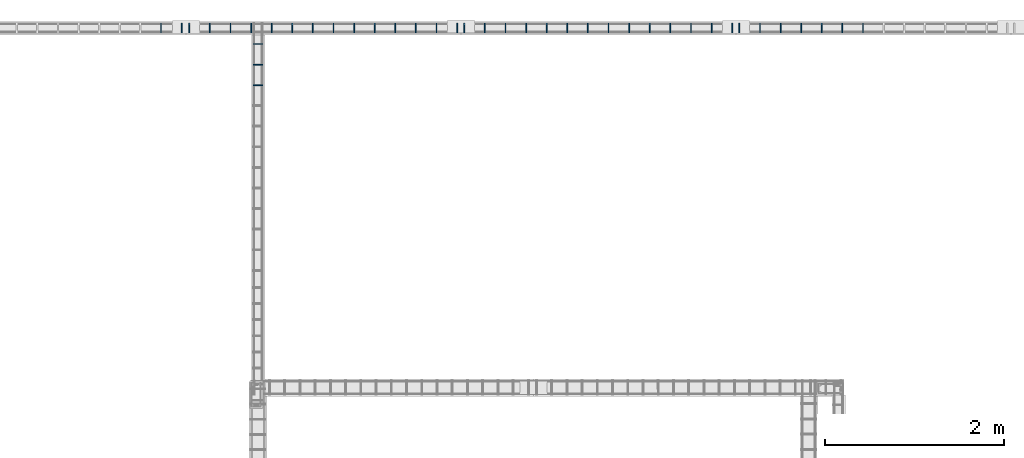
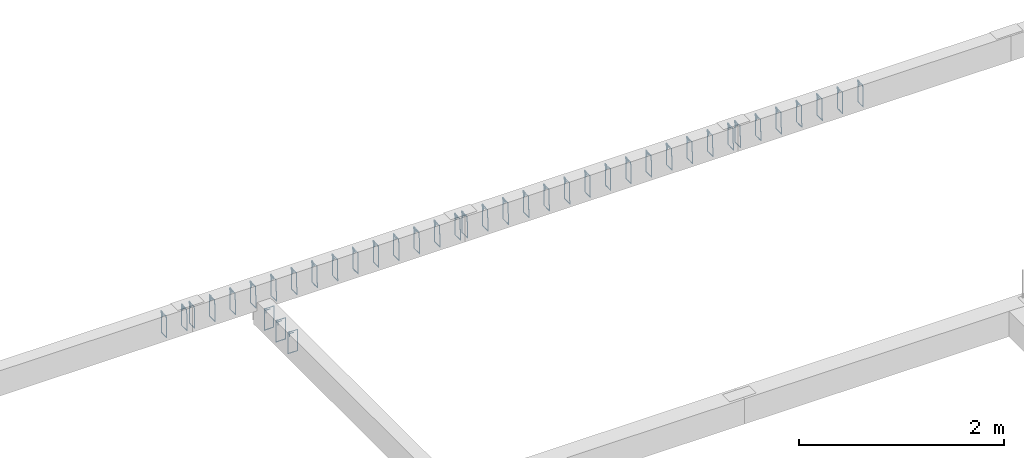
# One storey, part 140 of 150: 40 reinforcing bars.
"""IFC4 building model written with IfcOpenShell, lengths in centimetres."""

from ifc_helpers import new_model, entity, si_unit, derived_unit, frame, origin_with_axes, place, context, project, spatial, source, transform, mapped, element, save


model = new_model("IFC4")

# Units and contexts
model_context = context("Model", 3, precision=1e-05, world=origin_with_axes(), identifier="Body")
ifc_project = project(units=[si_unit("LENGTHUNIT", "METRE", prefix="CENTI"), si_unit("VOLUMEUNIT", "CUBIC_METRE"), si_unit("AREAUNIT", "SQUARE_METRE"), si_unit("POWERUNIT", "WATT"), si_unit("LUMINOUSFLUXUNIT", "LUMEN"), si_unit("ELECTRICCURRENTUNIT", "AMPERE"), si_unit("PRESSUREUNIT", "PASCAL", prefix="KILO"), si_unit("MASSUNIT", "GRAM", prefix="KILO"), si_unit("PLANEANGLEUNIT", "RADIAN"), derived_unit("VOLUMETRICFLOWRATEUNIT", [(si_unit("LENGTHUNIT", "METRE"), 3), (si_unit("TIMEUNIT", "SECOND"), -1)])], contexts=[model_context])

# Site, building, storey
site_placement = place(None, frame((-4000.0, 0.0, 0.0), z_axis=(0.0, 0.0, 1.0), x_axis=(1.0, 0.0, 0.0)))
site = spatial("IfcSite", under=ifc_project, at=site_placement, Name="PADRÃO")
building_placement = place(site_placement, frame((0.0, 0.0, -14.0)))
building = spatial("IfcBuilding", under=site, at=building_placement, Name="CRECHE PRÉ-ESCOLA TIPO 2")
placement = place(building_placement, origin_with_axes())
storey_placement = place(placement, frame((0.0, 0.0, 30.0), z_axis=(0.0, 0.0, 1.0), x_axis=(1.0, 0.0, 0.0)))
storey = spatial("IfcBuildingStorey", under=building, at=storey_placement, Name="VIGA BALDRAME", CompositionType="ELEMENT", Elevation=16.0)

# Reinforcing bars
shared_shape_1 = source(origin_with_axes(), model_context, "Body", "AdvancedSweptSolid", [
    entity("IfcSweptDiskSolid", entity("IfcCompositeCurve", [entity("IfcCompositeCurveSegment", "CONTINUOUS", True, entity("IfcPolyline", [entity("IfcCartesianPoint", [2.0, -6.0, 0.0]), entity("IfcCartesianPoint", [2.0, 0.0, 0.0])])), entity("IfcCompositeCurveSegment", "CONTINUOUS", True, entity("IfcPolyline", [entity("IfcCartesianPoint", [2.0, 0.0, 0.0]), entity("IfcCartesianPoint", [0.0, 0.0, 0.0])])), entity("IfcCompositeCurveSegment", "CONTINUOUS", True, entity("IfcPolyline", [entity("IfcCartesianPoint", [0.0, 0.0, 0.0]), entity("IfcCartesianPoint", [0.0, -25.5, 0.0])])), entity("IfcCompositeCurveSegment", "CONTINUOUS", True, entity("IfcPolyline", [entity("IfcCartesianPoint", [0.0, -25.5, 0.0]), entity("IfcCartesianPoint", [10.5, -25.5, 0.0])])), entity("IfcCompositeCurveSegment", "CONTINUOUS", True, entity("IfcPolyline", [entity("IfcCartesianPoint", [10.5, -25.5, 0.0]), entity("IfcCartesianPoint", [10.5, 0.0, 0.5])])), entity("IfcCompositeCurveSegment", "CONTINUOUS", True, entity("IfcPolyline", [entity("IfcCartesianPoint", [10.5, 0.0, 0.5]), entity("IfcCartesianPoint", [0.0, 0.0, 0.5])])), entity("IfcCompositeCurveSegment", "CONTINUOUS", True, entity("IfcPolyline", [entity("IfcCartesianPoint", [0.0, 0.0, 0.5]), entity("IfcCartesianPoint", [0.0, -2.0, 0.5])])), entity("IfcCompositeCurveSegment", "CONTINUOUS", True, entity("IfcPolyline", [entity("IfcCartesianPoint", [0.0, -2.0, 0.5]), entity("IfcCartesianPoint", [6.0, -2.0, 0.5])]))], False), 0.25),
])
for number, where, z_axis, x_axis, name in (
    (1, (2519.28, 4423.01, -22.25), (0.0, -1.0, 0.0), (1.0, 0.0, 0.0), "V200 - Estribo"),
    (2, (2519.28, 4446.01, -22.25), (0.0, -1.0, 0.0), (1.0, 0.0, 0.0), "V200 - Estribo"),
    (3, (2519.28, 4469.01, -22.25), (0.0, -1.0, 0.0), (1.0, 0.0, 0.0), "V200 - Estribo"),
):
    element("IfcReinforcingBar", number, at=place(storey_placement, frame(where, z_axis=z_axis, x_axis=x_axis)), inside=storey, Name=name, BarLength=0.0, CrossSectionArea=1.9634954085e-05, NominalDiameter=0.5, PredefinedType="MAIN", context=model_context, shape_type="MappedRepresentation", body=[
        mapped(shared_shape_1, transform((0.0, 0.0, 0.0), scale=1.0)),
    ])
shared_shape_2 = source(origin_with_axes(), model_context, "Body", "AdvancedSweptSolid", [
    entity("IfcSweptDiskSolid", entity("IfcCompositeCurve", [entity("IfcCompositeCurveSegment", "CONTINUOUS", True, entity("IfcPolyline", [entity("IfcCartesianPoint", [2.0, -6.0, 0.0]), entity("IfcCartesianPoint", [2.0, 0.0, 0.0])])), entity("IfcCompositeCurveSegment", "CONTINUOUS", True, entity("IfcPolyline", [entity("IfcCartesianPoint", [2.0, 0.0, 0.0]), entity("IfcCartesianPoint", [0.0, 0.0, 0.0])])), entity("IfcCompositeCurveSegment", "CONTINUOUS", True, entity("IfcPolyline", [entity("IfcCartesianPoint", [0.0, 0.0, 0.0]), entity("IfcCartesianPoint", [0.0, -25.5, 0.0])])), entity("IfcCompositeCurveSegment", "CONTINUOUS", True, entity("IfcPolyline", [entity("IfcCartesianPoint", [0.0, -25.5, 0.0]), entity("IfcCartesianPoint", [10.5, -25.5, 0.0])])), entity("IfcCompositeCurveSegment", "CONTINUOUS", True, entity("IfcPolyline", [entity("IfcCartesianPoint", [10.5, -25.5, 0.0]), entity("IfcCartesianPoint", [10.5, 0.0, 0.5])])), entity("IfcCompositeCurveSegment", "CONTINUOUS", True, entity("IfcPolyline", [entity("IfcCartesianPoint", [10.5, 0.0, 0.5]), entity("IfcCartesianPoint", [0.0, 0.0, 0.5])])), entity("IfcCompositeCurveSegment", "CONTINUOUS", True, entity("IfcPolyline", [entity("IfcCartesianPoint", [0.0, 0.0, 0.5]), entity("IfcCartesianPoint", [0.0, -2.0, 0.5])])), entity("IfcCompositeCurveSegment", "CONTINUOUS", True, entity("IfcPolyline", [entity("IfcCartesianPoint", [0.0, -2.0, 0.5]), entity("IfcCartesianPoint", [6.0, -2.0, 0.5])]))], False), 0.25),
])
for number, where, z_axis, x_axis, name in (
    (4, (2416.495, 4491.75, -2.25), (-1.0, 0.0, 0.0), (0.0, -1.0, 0.0), "V101 - Estribo"),
    (5, (2439.495, 4491.75, -2.25), (-1.0, 0.0, 0.0), (0.0, -1.0, 0.0), "V101 - Estribo"),
):
    element("IfcReinforcingBar", number, at=place(storey_placement, frame(where, z_axis=z_axis, x_axis=x_axis)), inside=storey, Name=name, BarLength=0.0, CrossSectionArea=1.9634954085e-05, NominalDiameter=0.5, PredefinedType="MAIN", context=model_context, shape_type="MappedRepresentation", body=[
        mapped(shared_shape_2, transform((0.0, 0.0, 0.0), scale=1.0)),
    ])
shared_shape_3 = source(origin_with_axes(), model_context, "Body", "AdvancedSweptSolid", [
    entity("IfcSweptDiskSolid", entity("IfcCompositeCurve", [entity("IfcCompositeCurveSegment", "CONTINUOUS", True, entity("IfcPolyline", [entity("IfcCartesianPoint", [2.0, -6.0, 0.0]), entity("IfcCartesianPoint", [2.0, 0.0, 0.0])])), entity("IfcCompositeCurveSegment", "CONTINUOUS", True, entity("IfcPolyline", [entity("IfcCartesianPoint", [2.0, 0.0, 0.0]), entity("IfcCartesianPoint", [0.0, 0.0, 0.0])])), entity("IfcCompositeCurveSegment", "CONTINUOUS", True, entity("IfcPolyline", [entity("IfcCartesianPoint", [0.0, 0.0, 0.0]), entity("IfcCartesianPoint", [0.0, -25.5, 0.0])])), entity("IfcCompositeCurveSegment", "CONTINUOUS", True, entity("IfcPolyline", [entity("IfcCartesianPoint", [0.0, -25.5, 0.0]), entity("IfcCartesianPoint", [10.5, -25.5, 0.0])])), entity("IfcCompositeCurveSegment", "CONTINUOUS", True, entity("IfcPolyline", [entity("IfcCartesianPoint", [10.5, -25.5, 0.0]), entity("IfcCartesianPoint", [10.5, 0.0, 0.5])])), entity("IfcCompositeCurveSegment", "CONTINUOUS", True, entity("IfcPolyline", [entity("IfcCartesianPoint", [10.5, 0.0, 0.5]), entity("IfcCartesianPoint", [0.0, 0.0, 0.5])])), entity("IfcCompositeCurveSegment", "CONTINUOUS", True, entity("IfcPolyline", [entity("IfcCartesianPoint", [0.0, 0.0, 0.5]), entity("IfcCartesianPoint", [0.0, -2.0, 0.5])])), entity("IfcCompositeCurveSegment", "CONTINUOUS", True, entity("IfcPolyline", [entity("IfcCartesianPoint", [0.0, -2.0, 0.5]), entity("IfcCartesianPoint", [6.0, -2.0, 0.5])]))], False), 0.25),
])
for number, where, z_axis, x_axis, name in (
    (6, (2747.0, 4491.75, -2.25), (-1.0, 0.0, 0.0), (0.0, -1.0, 0.0), "V101 - Estribo"),
    (7, (2724.0, 4491.75, -2.25), (-1.0, 0.0, 0.0), (0.0, -1.0, 0.0), "V101 - Estribo"),
    (8, (2701.0, 4491.75, -2.25), (-1.0, 0.0, 0.0), (0.0, -1.0, 0.0), "V101 - Estribo"),
    (9, (2678.0, 4491.75, -2.25), (-1.0, 0.0, 0.0), (0.0, -1.0, 0.0), "V101 - Estribo"),
    (10, (2655.0, 4491.75, -2.25), (-1.0, 0.0, 0.0), (0.0, -1.0, 0.0), "V101 - Estribo"),
    (11, (2632.0, 4491.75, -2.25), (-1.0, 0.0, 0.0), (0.0, -1.0, 0.0), "V101 - Estribo"),
    (12, (2609.0, 4491.75, -2.25), (-1.0, 0.0, 0.0), (0.0, -1.0, 0.0), "V101 - Estribo"),
    (13, (2586.0, 4491.75, -2.25), (-1.0, 0.0, 0.0), (0.0, -1.0, 0.0), "V101 - Estribo"),
    (14, (2563.0, 4491.75, -2.25), (-1.0, 0.0, 0.0), (0.0, -1.0, 0.0), "V101 - Estribo"),
    (15, (2540.0, 4491.75, -2.25), (-1.0, 0.0, 0.0), (0.0, -1.0, 0.0), "V101 - Estribo"),
    (16, (2517.0, 4491.75, -2.25), (-1.0, 0.0, 0.0), (0.0, -1.0, 0.0), "V101 - Estribo"),
    (17, (2494.0, 4491.75, -2.25), (-1.0, 0.0, 0.0), (0.0, -1.0, 0.0), "V101 - Estribo"),
    (18, (2471.0, 4491.75, -2.25), (-1.0, 0.0, 0.0), (0.0, -1.0, 0.0), "V101 - Estribo"),
    (19, (2448.0, 4491.75, -2.25), (-1.0, 0.0, 0.0), (0.0, -1.0, 0.0), "V101 - Estribo"),
):
    element("IfcReinforcingBar", number, at=place(storey_placement, frame(where, z_axis=z_axis, x_axis=x_axis)), inside=storey, Name=name, BarLength=0.0, CrossSectionArea=1.9634954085e-05, NominalDiameter=0.5, PredefinedType="MAIN", context=model_context, shape_type="MappedRepresentation", body=[
        mapped(shared_shape_3, transform((0.0, 0.0, 0.0), scale=1.0)),
    ])
shared_shape_4 = source(origin_with_axes(), model_context, "Body", "AdvancedSweptSolid", [
    entity("IfcSweptDiskSolid", entity("IfcCompositeCurve", [entity("IfcCompositeCurveSegment", "CONTINUOUS", True, entity("IfcPolyline", [entity("IfcCartesianPoint", [2.0, -6.0, 0.0]), entity("IfcCartesianPoint", [2.0, 0.0, 0.0])])), entity("IfcCompositeCurveSegment", "CONTINUOUS", True, entity("IfcPolyline", [entity("IfcCartesianPoint", [2.0, 0.0, 0.0]), entity("IfcCartesianPoint", [0.0, 0.0, 0.0])])), entity("IfcCompositeCurveSegment", "CONTINUOUS", True, entity("IfcPolyline", [entity("IfcCartesianPoint", [0.0, 0.0, 0.0]), entity("IfcCartesianPoint", [0.0, -25.5, 0.0])])), entity("IfcCompositeCurveSegment", "CONTINUOUS", True, entity("IfcPolyline", [entity("IfcCartesianPoint", [0.0, -25.5, 0.0]), entity("IfcCartesianPoint", [10.5, -25.5, 0.0])])), entity("IfcCompositeCurveSegment", "CONTINUOUS", True, entity("IfcPolyline", [entity("IfcCartesianPoint", [10.5, -25.5, 0.0]), entity("IfcCartesianPoint", [10.5, 0.0, 0.5])])), entity("IfcCompositeCurveSegment", "CONTINUOUS", True, entity("IfcPolyline", [entity("IfcCartesianPoint", [10.5, 0.0, 0.5]), entity("IfcCartesianPoint", [0.0, 0.0, 0.5])])), entity("IfcCompositeCurveSegment", "CONTINUOUS", True, entity("IfcPolyline", [entity("IfcCartesianPoint", [0.0, 0.0, 0.5]), entity("IfcCartesianPoint", [0.0, -2.0, 0.5])])), entity("IfcCompositeCurveSegment", "CONTINUOUS", True, entity("IfcPolyline", [entity("IfcCartesianPoint", [0.0, -2.0, 0.5]), entity("IfcCartesianPoint", [6.0, -2.0, 0.5])]))], False), 0.25),
])
for number, where, z_axis, x_axis, name in (
    (20, (2962.0, 4491.75, -2.25), (-1.0, 0.0, 0.0), (0.0, -1.0, 0.0), "V101 - Estribo"),
    (21, (2939.0, 4491.75, -2.25), (-1.0, 0.0, 0.0), (0.0, -1.0, 0.0), "V101 - Estribo"),
    (22, (2916.0, 4491.75, -2.25), (-1.0, 0.0, 0.0), (0.0, -1.0, 0.0), "V101 - Estribo"),
    (23, (2893.0, 4491.75, -2.25), (-1.0, 0.0, 0.0), (0.0, -1.0, 0.0), "V101 - Estribo"),
    (24, (2870.0, 4491.75, -2.25), (-1.0, 0.0, 0.0), (0.0, -1.0, 0.0), "V101 - Estribo"),
    (25, (2847.0, 4491.75, -2.25), (-1.0, 0.0, 0.0), (0.0, -1.0, 0.0), "V101 - Estribo"),
    (26, (2824.0, 4491.75, -2.25), (-1.0, 0.0, 0.0), (0.0, -1.0, 0.0), "V101 - Estribo"),
    (27, (2801.0, 4491.75, -2.25), (-1.0, 0.0, 0.0), (0.0, -1.0, 0.0), "V101 - Estribo"),
    (28, (2778.0, 4491.75, -2.25), (-1.0, 0.0, 0.0), (0.0, -1.0, 0.0), "V101 - Estribo"),
    (29, (2755.0, 4491.75, -2.25), (-1.0, 0.0, 0.0), (0.0, -1.0, 0.0), "V101 - Estribo"),
    (30, (3054.0, 4491.75, -2.25), (-1.0, 0.0, 0.0), (0.0, -1.0, 0.0), "V101 - Estribo"),
    (31, (3031.0, 4491.75, -2.25), (-1.0, 0.0, 0.0), (0.0, -1.0, 0.0), "V101 - Estribo"),
    (32, (3008.0, 4491.75, -2.25), (-1.0, 0.0, 0.0), (0.0, -1.0, 0.0), "V101 - Estribo"),
    (33, (2985.0, 4491.75, -2.25), (-1.0, 0.0, 0.0), (0.0, -1.0, 0.0), "V101 - Estribo"),
):
    element("IfcReinforcingBar", number, at=place(storey_placement, frame(where, z_axis=z_axis, x_axis=x_axis)), inside=storey, Name=name, BarLength=0.0, CrossSectionArea=1.9634954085e-05, NominalDiameter=0.5, PredefinedType="MAIN", context=model_context, shape_type="MappedRepresentation", body=[
        mapped(shared_shape_4, transform((0.0, 0.0, 0.0), scale=1.0)),
    ])
shared_shape_5 = source(origin_with_axes(), model_context, "Body", "AdvancedSweptSolid", [
    entity("IfcSweptDiskSolid", entity("IfcCompositeCurve", [entity("IfcCompositeCurveSegment", "CONTINUOUS", True, entity("IfcPolyline", [entity("IfcCartesianPoint", [2.0, -6.0, 0.0]), entity("IfcCartesianPoint", [2.0, 0.0, 0.0])])), entity("IfcCompositeCurveSegment", "CONTINUOUS", True, entity("IfcPolyline", [entity("IfcCartesianPoint", [2.0, 0.0, 0.0]), entity("IfcCartesianPoint", [0.0, 0.0, 0.0])])), entity("IfcCompositeCurveSegment", "CONTINUOUS", True, entity("IfcPolyline", [entity("IfcCartesianPoint", [0.0, 0.0, 0.0]), entity("IfcCartesianPoint", [0.0, -25.5, 0.0])])), entity("IfcCompositeCurveSegment", "CONTINUOUS", True, entity("IfcPolyline", [entity("IfcCartesianPoint", [0.0, -25.5, 0.0]), entity("IfcCartesianPoint", [10.5, -25.5, 0.0])])), entity("IfcCompositeCurveSegment", "CONTINUOUS", True, entity("IfcPolyline", [entity("IfcCartesianPoint", [10.5, -25.5, 0.0]), entity("IfcCartesianPoint", [10.5, 0.0, 0.5])])), entity("IfcCompositeCurveSegment", "CONTINUOUS", True, entity("IfcPolyline", [entity("IfcCartesianPoint", [10.5, 0.0, 0.5]), entity("IfcCartesianPoint", [0.0, 0.0, 0.5])])), entity("IfcCompositeCurveSegment", "CONTINUOUS", True, entity("IfcPolyline", [entity("IfcCartesianPoint", [0.0, 0.0, 0.5]), entity("IfcCartesianPoint", [0.0, -2.0, 0.5])])), entity("IfcCompositeCurveSegment", "CONTINUOUS", True, entity("IfcPolyline", [entity("IfcCartesianPoint", [0.0, -2.0, 0.5]), entity("IfcCartesianPoint", [6.0, -2.0, 0.5])]))], False), 0.25),
])
for number, where, z_axis, x_axis, name in (
    (34, (3200.0, 4491.75, -2.25), (-1.0, 0.0, 0.0), (0.0, -1.0, 0.0), "V101 - Estribo"),
    (35, (3177.0, 4491.75, -2.25), (-1.0, 0.0, 0.0), (0.0, -1.0, 0.0), "V101 - Estribo"),
    (36, (3154.0, 4491.75, -2.25), (-1.0, 0.0, 0.0), (0.0, -1.0, 0.0), "V101 - Estribo"),
    (37, (3131.0, 4491.75, -2.25), (-1.0, 0.0, 0.0), (0.0, -1.0, 0.0), "V101 - Estribo"),
    (38, (3108.0, 4491.75, -2.25), (-1.0, 0.0, 0.0), (0.0, -1.0, 0.0), "V101 - Estribo"),
    (39, (3085.0, 4491.75, -2.25), (-1.0, 0.0, 0.0), (0.0, -1.0, 0.0), "V101 - Estribo"),
    (40, (3062.0, 4491.75, -2.25), (-1.0, 0.0, 0.0), (0.0, -1.0, 0.0), "V101 - Estribo"),
):
    element("IfcReinforcingBar", number, at=place(storey_placement, frame(where, z_axis=z_axis, x_axis=x_axis)), inside=storey, Name=name, BarLength=0.0, CrossSectionArea=1.9634954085e-05, NominalDiameter=0.5, PredefinedType="MAIN", context=model_context, shape_type="MappedRepresentation", body=[
        mapped(shared_shape_5, transform((0.0, 0.0, 0.0), scale=1.0)),
    ])

save(model, "model.ifc")
